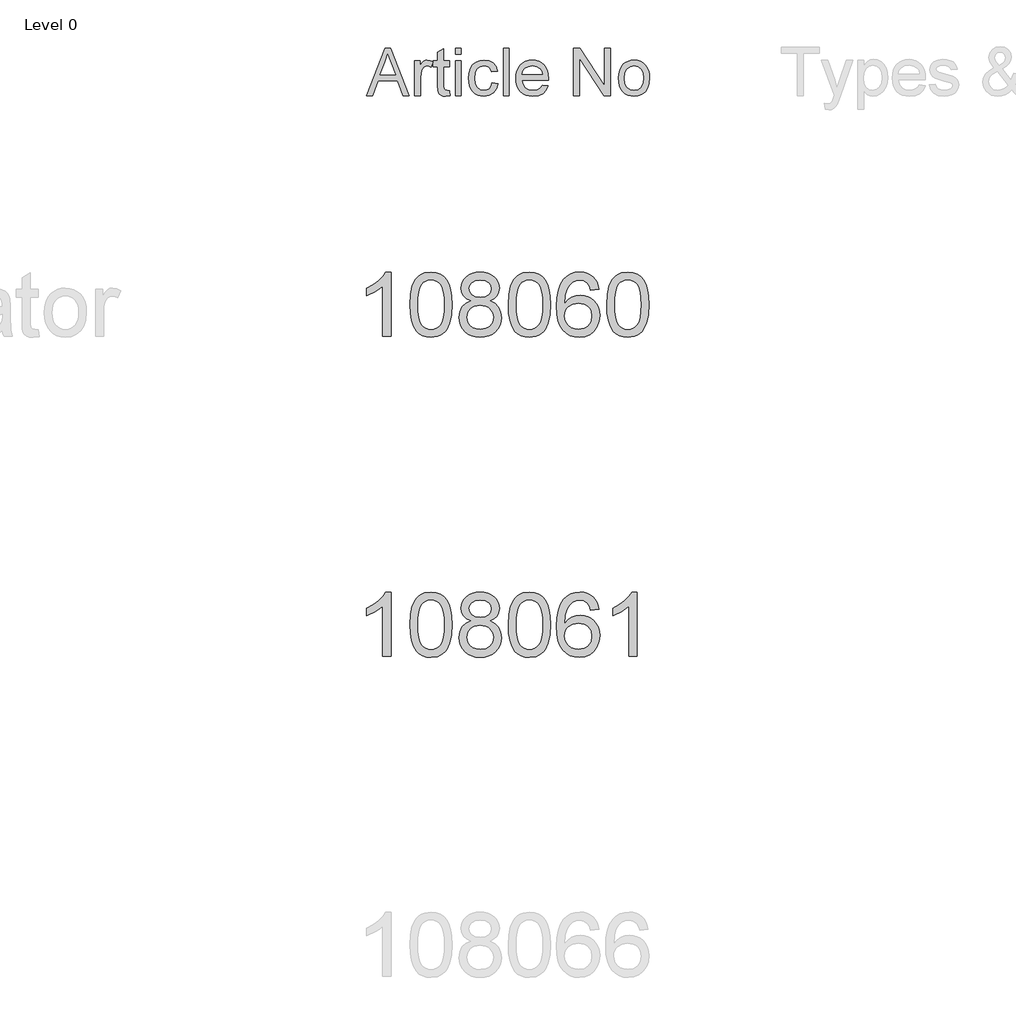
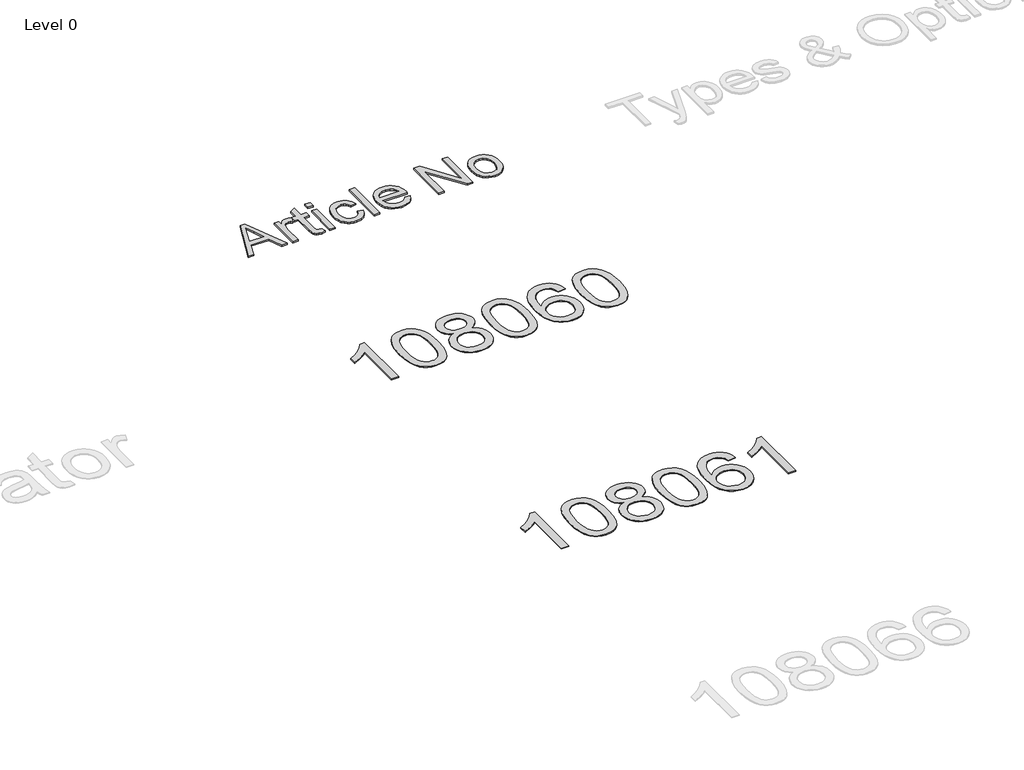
# One storey, part 8 of 9: 3 proxies.
"""IFC4 building model written with IfcOpenShell, lengths in millimetres."""

from ifc_helpers import new_model, si_unit, origin, origin_with_axes, place, context, project, spatial, polyline, outline, extrude, element, save

model = new_model("IFC4")

# Units and contexts
model_context = context("Model", 3, world=origin())
ifc_project = project(units=[si_unit("LENGTHUNIT", "METRE", prefix="MILLI")], contexts=[model_context])

# Site, building, storey
site = spatial("IfcSite", under=ifc_project)
building = spatial("IfcBuilding", under=site)
storey = spatial("IfcBuildingStorey", under=building, Name="Level 0", Elevation=0.0)

# Proxies
placement = place(None, origin())
element("IfcBuildingElementProxy", 1, Name="300mm Arial", ObjectType="300mm Arial", at=placement, inside=storey, context=model_context, shape_type="SweptSolid", body=[
    extrude(outline(polyline([(-3782.2115467, 11653.8274553), (-3664.3028928, 11949.2120707), (-3632.8605852, 11949.2120707), (-3514.9519313, 11653.8274553), (-3553.9663544, 11653.8274553), (-3587.7884698, 11746.1351476), (-3709.4471236, 11746.1351476), (-3743.1971236, 11653.8274553), (-3782.2115467, 11653.8274553)]), holes=[polyline([(-3695.8894313, 11783.0582246), (-3601.2740467, 11783.0582246), (-3627.8846236, 11855.6784169), (-3648.581739, 11912.2889938), (-3666.9711621, 11862.0245707), (-3695.8894313, 11783.0582246)])]), origin_with_axes(), (0.0, 0.0, 1.0), 10.0),
    extrude(outline(polyline([(-3480.1202005, 11653.8274553), (-3480.1202005, 11870.7505323), (-3447.8125082, 11870.7505323), (-3447.8125082, 11838.6591861), (-3435.8774121, 11857.2649553), (-3424.8798159, 11868.2264938), (-3413.8461621, 11873.5810611), (-3401.8028928, 11875.3659169), (-3383.4134698, 11872.5173592), (-3364.7355852, 11863.9716861), (-3377.0673159, 11830.8707246), (-3390.0480852, 11836.5498111), (-3403.0288544, 11838.44284), (-3414.0534938, 11836.6219265), (-3423.9062582, 11831.1591861), (-3431.8659938, 11822.4692823), (-3437.2115467, 11810.9668784), (-3441.7007294, 11790.3418784), (-3443.1971236, 11767.8418784), (-3443.1971236, 11653.8274553), (-3480.1202005, 11653.8274553)])), origin_with_axes(), (0.0, 0.0, 1.0), 10.0),
    extrude(outline(polyline([(-3263.1971236, 11684.6207246), (-3258.581739, 11652.7457246), (-3286.2019313, 11649.2120707), (-3303.9242871, 11650.7445226), (-3317.1394313, 11655.3418784), (-3326.4783736, 11662.427215), (-3332.5721236, 11671.4236092), (-3335.925489, 11686.8743303), (-3337.0432775, 11713.3226476), (-3337.0432775, 11833.8274553), (-3364.7355852, 11833.8274553), (-3364.7355852, 11870.7505323), (-3337.0432775, 11870.7505323), (-3337.0432775, 11923.4668784), (-3300.1202005, 11945.1736092), (-3300.1202005, 11870.7505323), (-3263.1971236, 11870.7505323), (-3263.1971236, 11833.8274553), (-3300.1202005, 11833.8274553), (-3300.1202005, 11714.4043784), (-3298.1730852, 11695.3659169), (-3291.862989, 11688.6231284), (-3279.2788544, 11686.1351476), (-3263.1971236, 11684.6207246)])), origin_with_axes(), (0.0, 0.0, 1.0), 10.0),
    extrude(outline(polyline([(-3226.2740467, 11912.2889938), (-3226.2740467, 11949.2120707), (-3189.3509698, 11949.2120707), (-3189.3509698, 11912.2889938), (-3226.2740467, 11912.2889938)])), origin_with_axes(), (0.0, 0.0, 1.0), 10.0),
    extrude(outline(polyline([(-3226.2740467, 11653.8274553), (-3226.2740467, 11870.7505323), (-3189.3509698, 11870.7505323), (-3189.3509698, 11653.8274553), (-3226.2740467, 11653.8274553)])), origin_with_axes(), (0.0, 0.0, 1.0), 10.0),
    extrude(outline(polyline([(-2995.5048159, 11732.2889938), (-2958.581739, 11727.6736092), (-2968.8762102, 11694.8340659), (-2988.2211621, 11670.0173592), (-3014.7956813, 11654.4133928), (-3046.7788544, 11649.2120707), (-3067.4872378, 11651.0262234), (-3086.0546957, 11656.4686813), (-3102.4812282, 11665.5394445), (-3116.7668352, 11678.238513), (-3128.3300864, 11694.3270046), (-3136.5895515, 11713.5660371), (-3141.5452306, 11735.9556104), (-3143.1971236, 11761.4957246), (-3140.3756092, 11794.3532967), (-3131.9110659, 11822.8298592), (-3117.6682775, 11845.8256525), (-3097.5120275, 11862.2409169), (-3073.3984457, 11872.0846669), (-3047.2836621, 11875.3659169), (-3016.0847438, 11870.8587053), (-2991.1418352, 11857.3370707), (-2973.2482053, 11835.5221669), (-2963.1971236, 11806.1351476), (-3000.1202005, 11801.519763), (-3006.8179169, 11817.6285371), (-3017.2476044, 11829.176013), (-3030.83234, 11836.1261332), (-3046.9952005, 11838.44284), (-3070.8563784, 11833.8815419), (-3089.7956813, 11820.1976476), (-3102.1544553, 11796.6519746), (-3106.2740467, 11762.50534), (-3102.2445996, 11727.8989698), (-3090.1562582, 11704.2721669), (-3071.5595034, 11690.6694025), (-3048.0048159, 11686.1351476), (-3028.8852246, 11688.9656765), (-3013.2091428, 11697.457263), (-3001.8058977, 11711.8262534), (-2995.5048159, 11732.2889938)])), origin_with_axes(), (0.0, 0.0, 1.0), 10.0),
    extrude(outline(polyline([(-2926.2740467, 11653.8274553), (-2926.2740467, 11949.2120707), (-2889.3509698, 11949.2120707), (-2889.3509698, 11653.8274553), (-2926.2740467, 11653.8274553)])), origin_with_axes(), (0.0, 0.0, 1.0), 10.0),
    extrude(outline(polyline([(-2682.0913544, 11718.44284), (-2645.8894313, 11713.8274553), (-2658.9333015, 11686.5498111), (-2679.7476044, 11666.1591861), (-2707.86359, 11653.4488496), (-2742.8125082, 11649.2120707), (-2765.7226645, 11651.039745), (-2786.1358255, 11656.5227678), (-2804.0519914, 11665.6611392), (-2819.4711621, 11678.4548592), (-2831.870501, 11694.547858), (-2840.7271717, 11713.5840659), (-2846.0411741, 11735.563483), (-2847.8125082, 11760.4861092), (-2846.0231453, 11786.2538375), (-2840.6550563, 11808.9656765), (-2831.7082414, 11828.621626), (-2819.1827005, 11845.2216861), (-2803.8040948, 11858.4097871), (-2786.2980852, 11867.8298592), (-2766.6646717, 11873.4819025), (-2744.9038544, 11875.3659169), (-2723.8439085, 11873.4864097), (-2704.7986861, 11867.847888), (-2687.7681873, 11858.450352), (-2672.7524121, 11845.2938015), (-2660.4950503, 11828.7297991), (-2651.7397919, 11809.1099073), (-2646.4866368, 11786.434126), (-2644.7355852, 11760.7024553), (-2644.9519313, 11750.7505323), (-2810.8894313, 11750.7505323), (-2804.4982053, 11723.1123111), (-2789.6514505, 11702.7938015), (-2768.2241669, 11690.2998111), (-2742.0913544, 11686.1351476), (-2722.4399121, 11688.0642342), (-2705.8894313, 11693.8514938), (-2692.4399121, 11703.8575034), (-2682.0913544, 11718.44284)]), holes=[polyline([(-2810.8894313, 11787.6736092), (-2681.6586621, 11787.6736092), (-2686.6526525, 11807.1808207), (-2696.4423159, 11821.1351476), (-2717.9687582, 11834.1159169), (-2745.0480852, 11838.44284), (-2769.9369073, 11834.9903159), (-2790.5168352, 11824.6327438), (-2804.8227246, 11808.4879121), (-2810.8894313, 11787.6736092)])]), origin_with_axes(), (0.0, 0.0, 1.0), 10.0),
    extrude(outline(polyline([(-2487.8125082, 11653.8274553), (-2487.8125082, 11949.2120707), (-2448.2932775, 11949.2120707), (-2293.9663544, 11715.1976476), (-2293.9663544, 11949.2120707), (-2257.0432775, 11949.2120707), (-2257.0432775, 11653.8274553), (-2296.5625082, 11653.8274553), (-2450.8894313, 11887.9139938), (-2450.8894313, 11653.8274553), (-2487.8125082, 11653.8274553)])), origin_with_axes(), (0.0, 0.0, 1.0), 10.0),
    extrude(outline(polyline([(-2206.2740467, 11762.2889938), (-2204.277352, 11790.3824433), (-2198.2872678, 11814.5906765), (-2188.3037943, 11834.9136933), (-2174.3269313, 11851.3514938), (-2160.2554169, 11861.8578039), (-2144.7235659, 11869.3623111), (-2127.7313784, 11873.8650154), (-2109.2788544, 11875.3659169), (-2088.9085118, 11873.5382426), (-2070.4897919, 11868.0552198), (-2054.0226945, 11858.9168484), (-2039.5072198, 11846.1231284), (-2027.6600142, 11830.1067522), (-2019.1977246, 11811.3004121), (-2014.1203508, 11789.704108), (-2012.4278928, 11765.31784), (-2015.4206813, 11728.0161573), (-2024.3990467, 11699.6207246), (-2039.1015707, 11678.3557005), (-2059.2668352, 11662.4452438), (-2083.2181573, 11652.520364), (-2109.2788544, 11649.2120707), (-2129.9466729, 11651.0329842), (-2148.5366669, 11656.4957246), (-2165.0488364, 11665.6002919), (-2179.4831813, 11678.3466861), (-2191.2041849, 11694.5185611), (-2199.5763303, 11713.8995707), (-2204.5996176, 11736.489715), (-2206.2740467, 11762.2889938)]), holes=[polyline([(-2169.3509698, 11762.3611092), (-2165.0781332, 11728.9446428), (-2152.2596236, 11705.1375515), (-2132.9687582, 11690.8857486), (-2109.2788544, 11686.1351476), (-2085.6971236, 11690.9127919), (-2066.4423159, 11705.2457246), (-2053.6238063, 11729.3683207), (-2049.3509698, 11763.5149553), (-2053.6508496, 11795.957864), (-2066.550489, 11819.4404361), (-2085.83234, 11833.692239), (-2109.2788544, 11838.44284), (-2132.9687582, 11833.7102678), (-2152.2596236, 11819.5125515), (-2165.0781332, 11795.7595467), (-2169.3509698, 11762.3611092)])]), origin_with_axes(), (0.0, 0.0, 1.0), 10.0),
])
element("IfcBuildingElementProxy", 2, Name="400mm Arial", ObjectType="400mm Arial", at=placement, inside=storey, context=model_context, shape_type="SweptSolid", body=[
    extrude(outline(polyline([(-3629.592891, 10149.0232018), (-3679.821046, 10149.0232018), (-3679.821046, 10462.1643561), (-3700.7903198, 10445.2049961), (-3727.4004508, 10428.2701616), (-3780.2773562, 10402.9108294), (-3780.2773562, 10450.3921323), (-3740.8281436, 10471.8519153), (-3706.6519062, 10497.3829258), (-3679.7106814, 10524.532617), (-3661.9665065, 10550.8484424), (-3629.592891, 10550.8484424), (-3629.592891, 10149.0232018)])), origin_with_axes(), (0.0, 0.0, 1.0), 5.0),
    extrude(outline(polyline([(-3510.3010227, 10346.6984606), (-3506.60994, 10411.0164961), (-3495.5366919, 10462.3115089), (-3477.1916431, 10501.3683141), (-3465.3335801, 10516.6016944), (-3451.6851581, 10528.9717264), (-3436.2003918, 10538.5427897), (-3418.8332959, 10545.3792634), (-3378.4521156, 10550.8484424), (-3347.5009771, 10547.6110809), (-3319.7872001, 10537.8989962), (-3296.6106344, 10522.0923331), (-3279.2711297, 10500.5712364), (-3266.1745307, 10473.519647), (-3255.726682, 10441.121506), (-3248.8840769, 10399.9800362), (-3246.6032085, 10346.6984606), (-3250.257503, 10282.7483071), (-3261.2203865, 10231.5759215), (-3279.4550707, 10192.4823282), (-3291.2855425, 10177.2029627), (-3304.9247675, 10164.7685512), (-3320.4279279, 10155.1331086), (-3337.8502061, 10148.2506496), (-3378.4521156, 10142.7446824), (-3406.1168416, 10145.1359154), (-3430.642308, 10152.3096143), (-3452.0285146, 10164.2657792), (-3470.2754616, 10181.0044099), (-3487.7866446, 10211.262704), (-3500.2946324, 10248.9644772), (-3507.7994251, 10294.1097294), (-3510.3010227, 10346.6984606)]), holes=[polyline([(-3460.0728676, 10346.7965624), (-3458.6013396, 10303.1320353), (-3454.1867557, 10267.7877726), (-3446.8291158, 10240.7637744), (-3436.5284199, 10222.0600406), (-3424.069483, 10209.3343892), (-3410.23712, 10200.2446383), (-3395.0313308, 10194.7907877), (-3378.4521156, 10192.9728375), (-3361.8729003, 10194.7969191), (-3346.6671112, 10200.2691637), (-3332.8347482, 10209.3895715), (-3320.3758113, 10222.1581425), (-3310.0751154, 10240.8925331), (-3302.7174755, 10267.9103999), (-3298.3028916, 10303.2117431), (-3296.8313636, 10346.7965624), (-3298.2538406, 10389.305327), (-3302.5212718, 10424.0272559), (-3309.633657, 10450.9623494), (-3319.5909964, 10470.1106072), (-3331.8414668, 10483.4585923), (-3345.8332454, 10492.9928673), (-3361.566332, 10498.7134323), (-3379.0407268, 10500.6202873), (-3395.5341029, 10498.9402929), (-3410.4823746, 10493.9003096), (-3423.885542, 10485.5003373), (-3435.743605, 10473.7403762), (-3446.3876574, 10452.8937298), (-3453.9905519, 10424.7875454), (-3458.5522887, 10389.4218229), (-3460.0728676, 10346.7965624)])]), origin_with_axes(), (0.0, 0.0, 1.0), 5.0),
    extrude(outline(polyline([(-3129.4695813, 10370.3410101), (-3156.3617551, 10383.5847619), (-3175.2341015, 10401.5374033), (-3186.3809259, 10423.8310522), (-3190.0965341, 10450.0978267), (-3188.0731831, 10470.5827224), (-3182.0031302, 10489.3630983), (-3171.8863753, 10506.4389542), (-3157.7229185, 10521.8102903), (-3140.1933414, 10534.5144818), (-3119.9782258, 10543.5889044), (-3097.0775716, 10549.0335579), (-3071.4913788, 10550.8484424), (-3045.7825587, 10548.9906383), (-3022.7102263, 10543.4172261), (-3002.2743814, 10534.1282057), (-2984.4750242, 10521.1235772), (-2970.05405, 10505.4518042), (-2959.7533542, 10488.1613504), (-2953.5729366, 10469.2522159), (-2951.5127975, 10448.7244006), (-2955.1793547, 10423.3037547), (-2966.1790263, 10401.3902505), (-2984.6344398, 10383.5479737), (-3010.6682223, 10370.3410101), (-2979.753872, 10354.4117197), (-2957.2517566, 10330.9531112), (-2943.5297582, 10301.0933559), (-2938.9557587, 10265.9606254), (-2941.2243643, 10240.9078615), (-2948.0301812, 10217.9397623), (-2959.3732094, 10197.0563277), (-2975.2534489, 10178.2575577), (-2994.8370338, 10162.7206748), (-3017.2900982, 10151.6229013), (-3042.6126422, 10144.9642371), (-3070.8046658, 10142.7446824), (-3098.9966893, 10144.9734342), (-3124.3192333, 10151.6596895), (-3146.7722978, 10162.8034482), (-3166.3558826, 10178.4047105), (-3182.2361221, 10197.3353048), (-3193.5791503, 10218.4670598), (-3200.3849672, 10241.7999753), (-3202.6535728, 10267.3340515), (-3197.8956324, 10303.8279454), (-3183.621811, 10333.8471162), (-3160.5678726, 10356.3614943), (-3129.4695813, 10370.3410101)]), holes=[polyline([(-3139.868379, 10448.6262987), (-3135.4170068, 10426.7005318), (-3122.0628904, 10409.1893488), (-3100.1984372, 10397.7114306), (-3070.2160546, 10393.8854578), (-3040.9326478, 10397.6869051), (-3019.3992883, 10409.0912469), (-3006.1555365, 10426.0138187), (-3001.7409525, 10446.3699558), (-3006.3026893, 10467.498645), (-3019.9878995, 10484.9730398), (-3041.8155645, 10496.7084755), (-3070.8046658, 10500.6202873), (-3099.977708, 10496.7943146), (-3121.7685848, 10485.3163963), (-3135.3434305, 10468.4919264), (-3139.868379, 10448.6262987)]), polyline([(-3152.4254178, 10269.099885), (-3150.3284904, 10249.8841822), (-3144.0377083, 10231.2816159), (-3132.4249, 10215.05802), (-3114.361894, 10202.9792278), (-3092.7304327, 10195.4744351), (-3070.4122583, 10192.9728375), (-3036.2237582, 10198.23355), (-3022.3300815, 10204.8094407), (-3010.5701204, 10214.0156876), (-2994.5304654, 10237.9157546), (-2989.1839138, 10267.5302552), (-2994.7021437, 10297.6475279), (-3011.2568335, 10322.0748924), (-3023.3356257, 10331.5171969), (-3037.4990825, 10338.2617001), (-3072.07999, 10343.6573027), (-3105.7902435, 10338.3352765), (-3119.5275703, 10331.6827438), (-3131.1863639, 10322.3691979), (-3147.1156543, 10298.4078173), (-3152.4254178, 10269.099885)])]), origin_with_axes(), (0.0, 0.0, 1.0), 5.0),
    extrude(outline(polyline([(-2895.006123, 10346.6984606), (-2891.3150403, 10411.0164961), (-2880.2417923, 10462.3115089), (-2861.8967434, 10501.3683141), (-2850.0386805, 10516.6016944), (-2836.3902584, 10528.9717264), (-2820.9054921, 10538.5427897), (-2803.5383963, 10545.3792634), (-2763.1572159, 10550.8484424), (-2732.2060774, 10547.6110809), (-2704.4923004, 10537.8989962), (-2681.3157347, 10522.0923331), (-2663.97623, 10500.5712364), (-2650.879631, 10473.519647), (-2640.4317823, 10441.121506), (-2633.5891772, 10399.9800362), (-2631.3083089, 10346.6984606), (-2634.9626033, 10282.7483071), (-2645.9254868, 10231.5759215), (-2664.160171, 10192.4823282), (-2675.9906429, 10177.2029627), (-2689.6298678, 10164.7685512), (-2705.1330282, 10155.1331086), (-2722.5553064, 10148.2506496), (-2763.1572159, 10142.7446824), (-2790.821942, 10145.1359154), (-2815.3474083, 10152.3096143), (-2836.733615, 10164.2657792), (-2854.9805619, 10181.0044099), (-2872.4917449, 10211.262704), (-2884.9997327, 10248.9644772), (-2892.5045254, 10294.1097294), (-2895.006123, 10346.6984606)]), holes=[polyline([(-2844.7779679, 10346.7965624), (-2843.3064399, 10303.1320353), (-2838.891856, 10267.7877726), (-2831.5342161, 10240.7637744), (-2821.2335202, 10222.0600406), (-2808.7745833, 10209.3343892), (-2794.9422203, 10200.2446383), (-2779.7364312, 10194.7907877), (-2763.1572159, 10192.9728375), (-2746.5780007, 10194.7969191), (-2731.3722115, 10200.2691637), (-2717.5398485, 10209.3895715), (-2705.0809116, 10222.1581425), (-2694.7802158, 10240.8925331), (-2687.4225759, 10267.9103999), (-2683.0079919, 10303.2117431), (-2681.5364639, 10346.7965624), (-2682.958941, 10389.305327), (-2687.2263721, 10424.0272559), (-2694.3387574, 10450.9623494), (-2704.2960967, 10470.1106072), (-2716.5465671, 10483.4585923), (-2730.5383457, 10492.9928673), (-2746.2714324, 10498.7134323), (-2763.7458271, 10500.6202873), (-2780.2392032, 10498.9402929), (-2795.187475, 10493.9003096), (-2808.5906423, 10485.5003373), (-2820.4487053, 10473.7403762), (-2831.0927577, 10452.8937298), (-2838.6956523, 10424.7875454), (-2843.257389, 10389.4218229), (-2844.7779679, 10346.7965624)])]), origin_with_axes(), (0.0, 0.0, 1.0), 5.0),
    extrude(outline(polyline([(-2329.9393784, 10444.1136129), (-2380.1675335, 10437.8350935), (-2388.2609374, 10462.7284418), (-2399.1992954, 10479.72459), (-2421.9834536, 10495.396363), (-2449.5255523, 10500.6202873), (-2472.8737963, 10497.5791295), (-2494.8486141, 10488.455656), (-2513.7209605, 10469.2399532), (-2529.1352161, 10442.7892377), (-2539.5462765, 10405.3756388), (-2543.4090375, 10353.2712855), (-2523.2613669, 10376.778945), (-2499.1160453, 10393.3458976), (-2472.3219733, 10403.1683468), (-2444.2280516, 10406.4424966), (-2420.0949927, 10404.2045478), (-2397.8258693, 10397.4907014), (-2377.4206813, 10386.3009573), (-2358.8794287, 10370.6353157), (-2343.4713045, 10351.4257442), (-2332.4655014, 10329.6042105), (-2325.8620196, 10305.1707147), (-2323.660859, 10278.1252567), (-2327.8056628, 10242.1586603), (-2340.2400743, 10208.8162888), (-2359.9340238, 10180.5384261), (-2385.8574417, 10159.7653561), (-2416.8331057, 10146.9998508), (-2451.6837933, 10142.7446824), (-2481.6263221, 10145.5651111), (-2508.6687144, 10154.026397), (-2532.8109703, 10168.1285401), (-2554.0530899, 10187.8715405), (-2571.3711348, 10214.089264), (-2583.7411669, 10247.6155765), (-2591.1631861, 10288.450478), (-2593.6371926, 10336.5939684), (-2590.8903403, 10390.5683885), (-2582.6497836, 10436.6333457), (-2568.9155225, 10474.7888399), (-2549.6875569, 10505.0348713), (-2528.8470418, 10525.0783087), (-2504.6833261, 10539.3950496), (-2477.1964097, 10547.9850942), (-2446.3862926, 10550.8484424), (-2423.2526465, 10549.0764775), (-2402.3140296, 10543.7605826), (-2383.5704419, 10534.9007579), (-2367.0218835, 10522.4970033), (-2353.1159441, 10506.9662518), (-2342.3002134, 10488.7254362), (-2334.5746915, 10467.7745565), (-2329.9393784, 10444.1136129)]), holes=[polyline([(-2543.4090375, 10278.9100716), (-2540.5027697, 10256.6532109), (-2531.7839664, 10235.4018943), (-2518.245909, 10217.1304219), (-2500.8818788, 10203.8130936), (-2479.9248678, 10195.6829015), (-2455.607868, 10192.9728375), (-2422.4617002, 10198.5891693), (-2408.5465637, 10205.609584), (-2396.4033922, 10215.4381647), (-2386.5533518, 10227.6763724), (-2379.5176086, 10241.9256683), (-2373.8890141, 10276.457525), (-2379.4440322, 10309.6036927), (-2386.3878049, 10323.2245236), (-2396.1090866, 10334.8771858), (-2408.2890463, 10344.2121914), (-2422.608853, 10350.8800526), (-2457.6680071, 10356.2143415), (-2490.765124, 10350.8800526), (-2518.4421127, 10334.8771858), (-2529.3651423, 10323.3778078), (-2537.1673063, 10310.2168294), (-2541.8486047, 10295.3942507), (-2543.4090375, 10278.9100716)])]), origin_with_axes(), (0.0, 0.0, 1.0), 5.0),
    extrude(outline(polyline([(-2279.7112233, 10346.6984606), (-2276.0201407, 10411.0164961), (-2264.9468926, 10462.3115089), (-2246.6018438, 10501.3683141), (-2234.7437808, 10516.6016944), (-2221.0953588, 10528.9717264), (-2205.6105925, 10538.5427897), (-2188.2434966, 10545.3792634), (-2147.8623163, 10550.8484424), (-2116.9111777, 10547.6110809), (-2089.1974008, 10537.8989962), (-2066.0208351, 10522.0923331), (-2048.6813304, 10500.5712364), (-2035.5847313, 10473.519647), (-2025.1368827, 10441.121506), (-2018.2942776, 10399.9800362), (-2016.0134092, 10346.6984606), (-2019.6677037, 10282.7483071), (-2030.6305871, 10231.5759215), (-2048.8652714, 10192.4823282), (-2060.6957432, 10177.2029627), (-2074.3349682, 10164.7685512), (-2089.8381286, 10155.1331086), (-2107.2604067, 10148.2506496), (-2147.8623163, 10142.7446824), (-2175.5270423, 10145.1359154), (-2200.0525086, 10152.3096143), (-2221.4387153, 10164.2657792), (-2239.6856623, 10181.0044099), (-2257.1968452, 10211.262704), (-2269.7048331, 10248.9644772), (-2277.2096258, 10294.1097294), (-2279.7112233, 10346.6984606)]), holes=[polyline([(-2229.4830683, 10346.7965624), (-2228.0115403, 10303.1320353), (-2223.5969563, 10267.7877726), (-2216.2393164, 10240.7637744), (-2205.9386206, 10222.0600406), (-2193.4796837, 10209.3343892), (-2179.6473206, 10200.2446383), (-2164.4415315, 10194.7907877), (-2147.8623163, 10192.9728375), (-2131.283101, 10194.7969191), (-2116.0773119, 10200.2691637), (-2102.2449489, 10209.3895715), (-2089.786012, 10222.1581425), (-2079.4853161, 10240.8925331), (-2072.1276762, 10267.9103999), (-2067.7130922, 10303.2117431), (-2066.2415643, 10346.7965624), (-2067.6640413, 10389.305327), (-2071.9314725, 10424.0272559), (-2079.0438577, 10450.9623494), (-2089.001197, 10470.1106072), (-2101.2516675, 10483.4585923), (-2115.243446, 10492.9928673), (-2130.9765327, 10498.7134323), (-2148.4509275, 10500.6202873), (-2164.9443036, 10498.9402929), (-2179.8925753, 10493.9003096), (-2193.2957427, 10485.5003373), (-2205.1538056, 10473.7403762), (-2215.797858, 10452.8937298), (-2223.4007526, 10424.7875454), (-2227.9624893, 10389.4218229), (-2229.4830683, 10346.7965624)])]), origin_with_axes(), (0.0, 0.0, 1.0), 5.0),
])
element("IfcBuildingElementProxy", 3, Name="400mm Arial", ObjectType="400mm Arial", at=placement, inside=storey, context=model_context, shape_type="SweptSolid", body=[
    extrude(outline(polyline([(-3629.592891, 8149.0232018), (-3679.821046, 8149.0232018), (-3679.821046, 8462.1643561), (-3700.7903198, 8445.2049961), (-3727.4004508, 8428.2701616), (-3780.2773562, 8402.9108294), (-3780.2773562, 8450.3921323), (-3740.8281436, 8471.8519153), (-3706.6519062, 8497.3829258), (-3679.7106814, 8524.532617), (-3661.9665065, 8550.8484424), (-3629.592891, 8550.8484424), (-3629.592891, 8149.0232018)])), origin_with_axes(), (0.0, 0.0, 1.0), 5.0),
    extrude(outline(polyline([(-3510.3010227, 8346.6984606), (-3506.60994, 8411.0164961), (-3495.5366919, 8462.3115089), (-3477.1916431, 8501.3683141), (-3465.3335801, 8516.6016944), (-3451.6851581, 8528.9717264), (-3436.2003918, 8538.5427897), (-3418.8332959, 8545.3792634), (-3378.4521156, 8550.8484424), (-3347.5009771, 8547.6110809), (-3319.7872001, 8537.8989962), (-3296.6106344, 8522.0923331), (-3279.2711297, 8500.5712364), (-3266.1745307, 8473.519647), (-3255.726682, 8441.121506), (-3248.8840769, 8399.9800362), (-3246.6032085, 8346.6984606), (-3250.257503, 8282.7483071), (-3261.2203865, 8231.5759215), (-3279.4550707, 8192.4823282), (-3291.2855425, 8177.2029627), (-3304.9247675, 8164.7685512), (-3320.4279279, 8155.1331086), (-3337.8502061, 8148.2506496), (-3378.4521156, 8142.7446824), (-3406.1168416, 8145.1359154), (-3430.642308, 8152.3096143), (-3452.0285146, 8164.2657792), (-3470.2754616, 8181.0044099), (-3487.7866446, 8211.262704), (-3500.2946324, 8248.9644772), (-3507.7994251, 8294.1097294), (-3510.3010227, 8346.6984606)]), holes=[polyline([(-3460.0728676, 8346.7965624), (-3458.6013396, 8303.1320353), (-3454.1867557, 8267.7877726), (-3446.8291158, 8240.7637744), (-3436.5284199, 8222.0600406), (-3424.069483, 8209.3343892), (-3410.23712, 8200.2446383), (-3395.0313308, 8194.7907877), (-3378.4521156, 8192.9728375), (-3361.8729003, 8194.7969191), (-3346.6671112, 8200.2691637), (-3332.8347482, 8209.3895715), (-3320.3758113, 8222.1581425), (-3310.0751154, 8240.8925331), (-3302.7174755, 8267.9103999), (-3298.3028916, 8303.2117431), (-3296.8313636, 8346.7965624), (-3298.2538406, 8389.305327), (-3302.5212718, 8424.0272559), (-3309.633657, 8450.9623494), (-3319.5909964, 8470.1106072), (-3331.8414668, 8483.4585923), (-3345.8332454, 8492.9928673), (-3361.566332, 8498.7134323), (-3379.0407268, 8500.6202873), (-3395.5341029, 8498.9402929), (-3410.4823746, 8493.9003096), (-3423.885542, 8485.5003373), (-3435.743605, 8473.7403762), (-3446.3876574, 8452.8937298), (-3453.9905519, 8424.7875454), (-3458.5522887, 8389.4218229), (-3460.0728676, 8346.7965624)])]), origin_with_axes(), (0.0, 0.0, 1.0), 5.0),
    extrude(outline(polyline([(-3129.4695813, 8370.3410101), (-3156.3617551, 8383.5847619), (-3175.2341015, 8401.5374033), (-3186.3809259, 8423.8310522), (-3190.0965341, 8450.0978267), (-3188.0731831, 8470.5827224), (-3182.0031302, 8489.3630983), (-3171.8863753, 8506.4389542), (-3157.7229185, 8521.8102903), (-3140.1933414, 8534.5144818), (-3119.9782258, 8543.5889044), (-3097.0775716, 8549.0335579), (-3071.4913788, 8550.8484424), (-3045.7825587, 8548.9906383), (-3022.7102263, 8543.4172261), (-3002.2743814, 8534.1282057), (-2984.4750242, 8521.1235772), (-2970.05405, 8505.4518042), (-2959.7533542, 8488.1613504), (-2953.5729366, 8469.2522159), (-2951.5127975, 8448.7244006), (-2955.1793547, 8423.3037547), (-2966.1790263, 8401.3902505), (-2984.6344398, 8383.5479737), (-3010.6682223, 8370.3410101), (-2979.753872, 8354.4117197), (-2957.2517566, 8330.9531112), (-2943.5297582, 8301.0933559), (-2938.9557587, 8265.9606254), (-2941.2243643, 8240.9078615), (-2948.0301812, 8217.9397623), (-2959.3732094, 8197.0563277), (-2975.2534489, 8178.2575577), (-2994.8370338, 8162.7206748), (-3017.2900982, 8151.6229013), (-3042.6126422, 8144.9642371), (-3070.8046658, 8142.7446824), (-3098.9966893, 8144.9734342), (-3124.3192333, 8151.6596895), (-3146.7722978, 8162.8034482), (-3166.3558826, 8178.4047105), (-3182.2361221, 8197.3353048), (-3193.5791503, 8218.4670598), (-3200.3849672, 8241.7999753), (-3202.6535728, 8267.3340515), (-3197.8956324, 8303.8279454), (-3183.621811, 8333.8471162), (-3160.5678726, 8356.3614943), (-3129.4695813, 8370.3410101)]), holes=[polyline([(-3139.868379, 8448.6262987), (-3135.4170068, 8426.7005318), (-3122.0628904, 8409.1893488), (-3100.1984372, 8397.7114306), (-3070.2160546, 8393.8854578), (-3040.9326478, 8397.6869051), (-3019.3992883, 8409.0912469), (-3006.1555365, 8426.0138187), (-3001.7409525, 8446.3699558), (-3006.3026893, 8467.498645), (-3019.9878995, 8484.9730398), (-3041.8155645, 8496.7084755), (-3070.8046658, 8500.6202873), (-3099.977708, 8496.7943146), (-3121.7685848, 8485.3163963), (-3135.3434305, 8468.4919264), (-3139.868379, 8448.6262987)]), polyline([(-3152.4254178, 8269.099885), (-3150.3284904, 8249.8841822), (-3144.0377083, 8231.2816159), (-3132.4249, 8215.05802), (-3114.361894, 8202.9792278), (-3092.7304327, 8195.4744351), (-3070.4122583, 8192.9728375), (-3036.2237582, 8198.23355), (-3022.3300815, 8204.8094407), (-3010.5701204, 8214.0156876), (-2994.5304654, 8237.9157546), (-2989.1839138, 8267.5302552), (-2994.7021437, 8297.6475279), (-3011.2568335, 8322.0748924), (-3023.3356257, 8331.5171969), (-3037.4990825, 8338.2617001), (-3072.07999, 8343.6573027), (-3105.7902435, 8338.3352765), (-3119.5275703, 8331.6827438), (-3131.1863639, 8322.3691979), (-3147.1156543, 8298.4078173), (-3152.4254178, 8269.099885)])]), origin_with_axes(), (0.0, 0.0, 1.0), 5.0),
    extrude(outline(polyline([(-2895.006123, 8346.6984606), (-2891.3150403, 8411.0164961), (-2880.2417923, 8462.3115089), (-2861.8967434, 8501.3683141), (-2850.0386805, 8516.6016944), (-2836.3902584, 8528.9717264), (-2820.9054921, 8538.5427897), (-2803.5383963, 8545.3792634), (-2763.1572159, 8550.8484424), (-2732.2060774, 8547.6110809), (-2704.4923004, 8537.8989962), (-2681.3157347, 8522.0923331), (-2663.97623, 8500.5712364), (-2650.879631, 8473.519647), (-2640.4317823, 8441.121506), (-2633.5891772, 8399.9800362), (-2631.3083089, 8346.6984606), (-2634.9626033, 8282.7483071), (-2645.9254868, 8231.5759215), (-2664.160171, 8192.4823282), (-2675.9906429, 8177.2029627), (-2689.6298678, 8164.7685512), (-2705.1330282, 8155.1331086), (-2722.5553064, 8148.2506496), (-2763.1572159, 8142.7446824), (-2790.821942, 8145.1359154), (-2815.3474083, 8152.3096143), (-2836.733615, 8164.2657792), (-2854.9805619, 8181.0044099), (-2872.4917449, 8211.262704), (-2884.9997327, 8248.9644772), (-2892.5045254, 8294.1097294), (-2895.006123, 8346.6984606)]), holes=[polyline([(-2844.7779679, 8346.7965624), (-2843.3064399, 8303.1320353), (-2838.891856, 8267.7877726), (-2831.5342161, 8240.7637744), (-2821.2335202, 8222.0600406), (-2808.7745833, 8209.3343892), (-2794.9422203, 8200.2446383), (-2779.7364312, 8194.7907877), (-2763.1572159, 8192.9728375), (-2746.5780007, 8194.7969191), (-2731.3722115, 8200.2691637), (-2717.5398485, 8209.3895715), (-2705.0809116, 8222.1581425), (-2694.7802158, 8240.8925331), (-2687.4225759, 8267.9103999), (-2683.0079919, 8303.2117431), (-2681.5364639, 8346.7965624), (-2682.958941, 8389.305327), (-2687.2263721, 8424.0272559), (-2694.3387574, 8450.9623494), (-2704.2960967, 8470.1106072), (-2716.5465671, 8483.4585923), (-2730.5383457, 8492.9928673), (-2746.2714324, 8498.7134323), (-2763.7458271, 8500.6202873), (-2780.2392032, 8498.9402929), (-2795.187475, 8493.9003096), (-2808.5906423, 8485.5003373), (-2820.4487053, 8473.7403762), (-2831.0927577, 8452.8937298), (-2838.6956523, 8424.7875454), (-2843.257389, 8389.4218229), (-2844.7779679, 8346.7965624)])]), origin_with_axes(), (0.0, 0.0, 1.0), 5.0),
    extrude(outline(polyline([(-2329.9393784, 8444.1136129), (-2380.1675335, 8437.8350935), (-2388.2609374, 8462.7284418), (-2399.1992954, 8479.72459), (-2421.9834536, 8495.396363), (-2449.5255523, 8500.6202873), (-2472.8737963, 8497.5791295), (-2494.8486141, 8488.455656), (-2513.7209605, 8469.2399532), (-2529.1352161, 8442.7892377), (-2539.5462765, 8405.3756388), (-2543.4090375, 8353.2712855), (-2523.2613669, 8376.778945), (-2499.1160453, 8393.3458976), (-2472.3219733, 8403.1683468), (-2444.2280516, 8406.4424966), (-2420.0949927, 8404.2045478), (-2397.8258693, 8397.4907014), (-2377.4206813, 8386.3009573), (-2358.8794287, 8370.6353157), (-2343.4713045, 8351.4257442), (-2332.4655014, 8329.6042105), (-2325.8620196, 8305.1707147), (-2323.660859, 8278.1252567), (-2327.8056628, 8242.1586603), (-2340.2400743, 8208.8162888), (-2359.9340238, 8180.5384261), (-2385.8574417, 8159.7653561), (-2416.8331057, 8146.9998508), (-2451.6837933, 8142.7446824), (-2481.6263221, 8145.5651111), (-2508.6687144, 8154.026397), (-2532.8109703, 8168.1285401), (-2554.0530899, 8187.8715405), (-2571.3711348, 8214.089264), (-2583.7411669, 8247.6155765), (-2591.1631861, 8288.450478), (-2593.6371926, 8336.5939684), (-2590.8903403, 8390.5683885), (-2582.6497836, 8436.6333457), (-2568.9155225, 8474.7888399), (-2549.6875569, 8505.0348713), (-2528.8470418, 8525.0783087), (-2504.6833261, 8539.3950496), (-2477.1964097, 8547.9850942), (-2446.3862926, 8550.8484424), (-2423.2526465, 8549.0764775), (-2402.3140296, 8543.7605826), (-2383.5704419, 8534.9007579), (-2367.0218835, 8522.4970033), (-2353.1159441, 8506.9662518), (-2342.3002134, 8488.7254362), (-2334.5746915, 8467.7745565), (-2329.9393784, 8444.1136129)]), holes=[polyline([(-2543.4090375, 8278.9100716), (-2540.5027697, 8256.6532109), (-2531.7839664, 8235.4018943), (-2518.245909, 8217.1304219), (-2500.8818788, 8203.8130936), (-2479.9248678, 8195.6829015), (-2455.607868, 8192.9728375), (-2422.4617002, 8198.5891693), (-2408.5465637, 8205.609584), (-2396.4033922, 8215.4381647), (-2386.5533518, 8227.6763724), (-2379.5176086, 8241.9256683), (-2373.8890141, 8276.457525), (-2379.4440322, 8309.6036927), (-2386.3878049, 8323.2245236), (-2396.1090866, 8334.8771858), (-2408.2890463, 8344.2121914), (-2422.608853, 8350.8800526), (-2457.6680071, 8356.2143415), (-2490.765124, 8350.8800526), (-2518.4421127, 8334.8771858), (-2529.3651423, 8323.3778078), (-2537.1673063, 8310.2168294), (-2541.8486047, 8295.3942507), (-2543.4090375, 8278.9100716)])]), origin_with_axes(), (0.0, 0.0, 1.0), 5.0),
    extrude(outline(polyline([(-2091.3556418, 8149.0232018), (-2141.5837969, 8149.0232018), (-2141.5837969, 8462.1643561), (-2162.5530706, 8445.2049961), (-2189.1632016, 8428.2701616), (-2242.040107, 8402.9108294), (-2242.040107, 8450.3921323), (-2202.5908944, 8471.8519153), (-2168.4146571, 8497.3829258), (-2141.4734323, 8524.532617), (-2123.7292574, 8550.8484424), (-2091.3556418, 8550.8484424), (-2091.3556418, 8149.0232018)])), origin_with_axes(), (0.0, 0.0, 1.0), 5.0),
])

save(model, "model.ifc")
